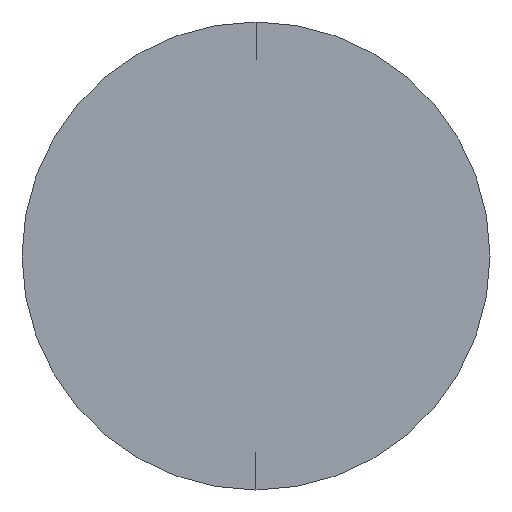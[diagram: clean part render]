
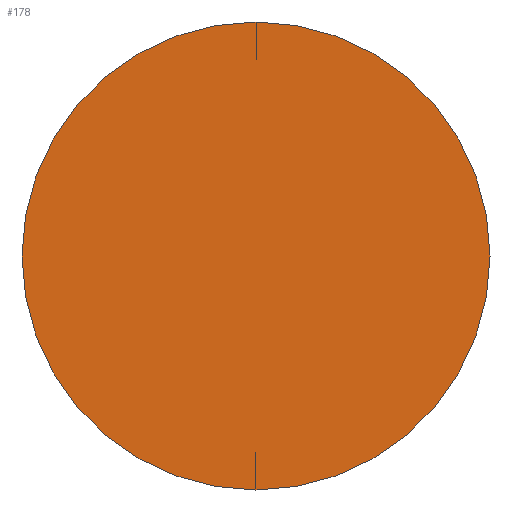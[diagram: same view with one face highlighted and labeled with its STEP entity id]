
A CAD part, left-side view. The second image highlights one B-rep face of the part: STEP entity #178.
In plain terms, the highlighted planar face has unit normal (-1, 0, 0).
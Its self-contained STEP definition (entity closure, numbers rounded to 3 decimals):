
#25 = DIRECTION ( 'NONE',  ( -1., 0., 0. ) ) ;
#64 = DIRECTION ( 'NONE',  ( 0., 0., 1. ) ) ;
#73 = CIRCLE ( 'NONE', #136, 1.75 ) ;
#84 = FACE_OUTER_BOUND ( 'NONE', #253, .T. ) ;
#85 = CIRCLE ( 'NONE', #189, 1.75 ) ;
#89 = DIRECTION ( 'NONE',  ( -1., 0., 0. ) ) ;
#98 = CARTESIAN_POINT ( 'NONE',  ( 0., 0., 0. ) ) ;
#99 = AXIS2_PLACEMENT_3D ( 'NONE', #280, #141, #283 ) ;
#110 = CARTESIAN_POINT ( 'NONE',  ( 0., 0., 0. ) ) ;
#122 = VERTEX_POINT ( 'NONE', #182 ) ;
#136 = AXIS2_PLACEMENT_3D ( 'NONE', #98, #89, #64 ) ;
#141 = DIRECTION ( 'NONE',  ( 1., 0., 0. ) ) ;
#144 = PLANE ( 'NONE',  #99 ) ;
#159 = EDGE_CURVE ( 'NONE', #122, #202, #85, .T. ) ;
#178 = ADVANCED_FACE ( 'NONE', ( #84 ), #144, .F. ) ;
#182 = CARTESIAN_POINT ( 'NONE',  ( 0., 0., 1.75 ) ) ;
#189 = AXIS2_PLACEMENT_3D ( 'NONE', #110, #25, #212 ) ;
#196 = EDGE_CURVE ( 'NONE', #202, #122, #73, .T. ) ;
#198 = CARTESIAN_POINT ( 'NONE',  ( 0., 0., -1.75 ) ) ;
#202 = VERTEX_POINT ( 'NONE', #198 ) ;
#212 = DIRECTION ( 'NONE',  ( 0., 0., 1. ) ) ;
#237 = ORIENTED_EDGE ( 'NONE', *, *, #196, .T. ) ;
#253 = EDGE_LOOP ( 'NONE', ( #278, #237 ) ) ;
#278 = ORIENTED_EDGE ( 'NONE', *, *, #159, .T. ) ;
#280 = CARTESIAN_POINT ( 'NONE',  ( 0., 0., 0. ) ) ;
#283 = DIRECTION ( 'NONE',  ( 0., 0., -1. ) ) ;
